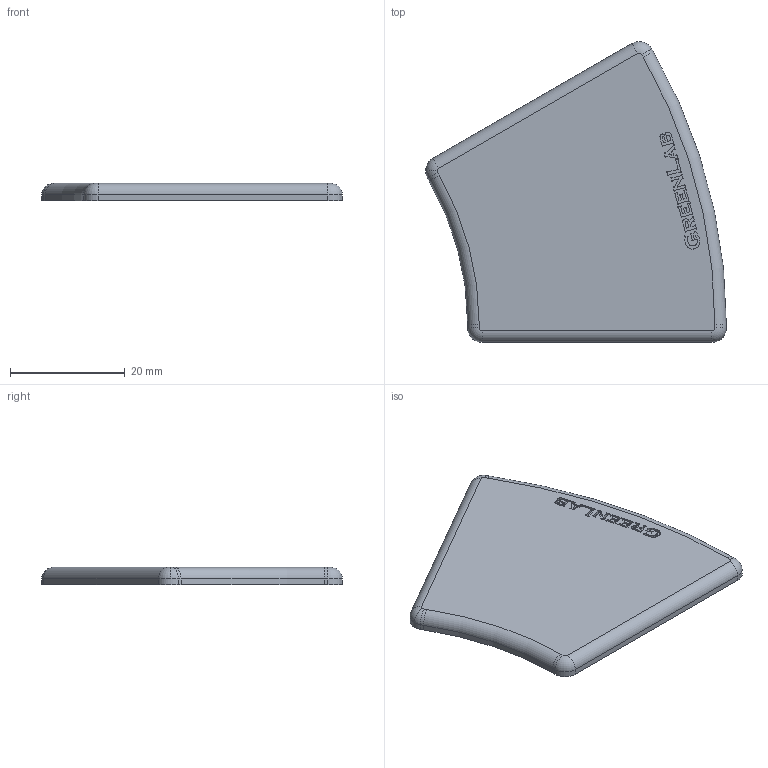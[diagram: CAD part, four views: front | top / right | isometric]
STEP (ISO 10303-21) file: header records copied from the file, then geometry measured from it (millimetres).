
FILE_DESCRIPTION (( 'STEP AP214' ), '1' );
FILE_NAME ('1.1017 Päätysuoja 45 R 30.STEP', '2023-12-04T13:03:28', ( '' ), ( '' ), 'SwSTEP 2.0', 'SolidWorks 2019', '' );
FILE_SCHEMA (( 'AUTOMOTIVE_DESIGN' ));
Length unit declared in the file: millimetre
Products named in the file (1): 1.1017 Päätysuoja 45 R 30
Bounding box: 52.32 x 52.32 x 3 mm (x, y, z)
Volume: 5781 mm3; surface area: 4383.3 mm2
Topology: 1 solids, 1 shells, 249 faces, 693 edges, 458 vertices
Faces by surface type: plane 145, bspline 85, cylinder 12, torus 7
Entity records: 10596 total; most frequent: CARTESIAN_POINT 4734, ORIENTED_EDGE 1386, DIRECTION 886, EDGE_CURVE 693, VECTOR 490, LINE 490, VERTEX_POINT 458, EDGE_LOOP 261
